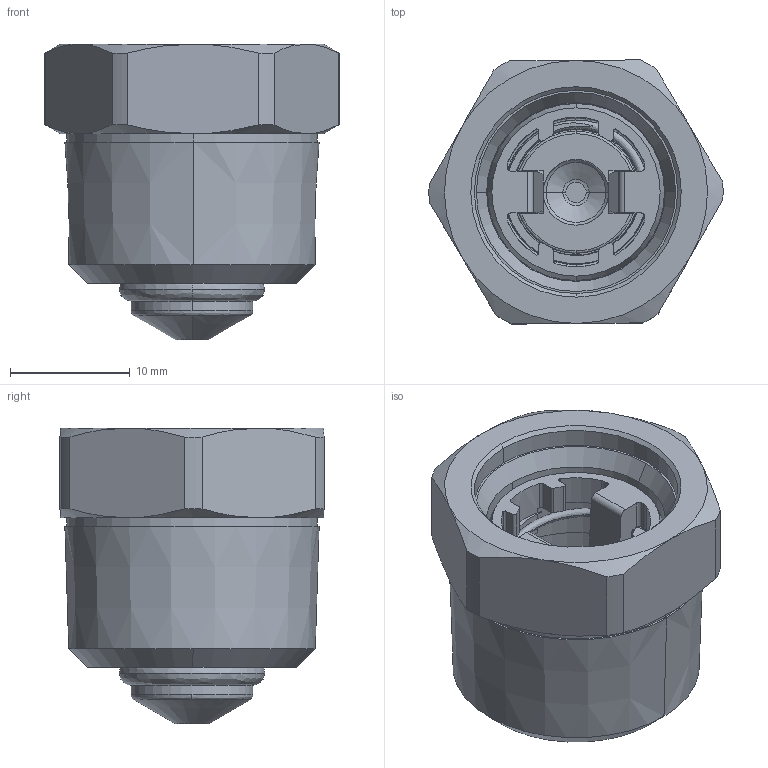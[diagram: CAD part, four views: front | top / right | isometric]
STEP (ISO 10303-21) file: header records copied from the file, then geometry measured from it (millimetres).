
FILE_DESCRIPTION (( 'STEP AP214' ), '1' );
FILE_NAME ('77720.STEP', '2022-04-21T06:47:00', ( '' ), ( '' ), 'SwSTEP 2.0', 'SolidWorks 2021', '' );
FILE_SCHEMA (( 'AUTOMOTIVE_DESIGN' ));
Length unit declared in the file: millimetre
Products named in the file (6): 05 00 250330_Druckfeder _X_F812x21,2mm d=0,7mm; 05 00 25 40_MV G3_8ixR1_2ax20 _RO_; 05 00 250325_St_X_F6_X_DFel MV R1_2 L=22; 801 000 0184_O-Ring _X_F88,0x2,0mm EPDM; 77720; 05 00 250320_Ventilgeh_X_E4use MV G3_8ixR1_2a SW22x20_ Ms
Assembly tree (5 placements, depth 3):
  77720
    05 00 25 40_MV G3_8ixR1_2ax20 _RO_
      05 00 250330_Druckfeder _X_F812x21,2mm d=0,7mm
      801 000 0184_O-Ring _X_F88,0x2,0mm EPDM
      05 00 250325_St_X_F6_X_DFel MV R1_2 L=22
    05 00 250320_Ventilgeh_X_E4use MV G3_8ixR1_2a SW22x20_ Ms
Bounding box: 24.6 x 22.09 x 24.74 mm (x, y, z)
Volume: 4667 mm3; surface area: 4447.9 mm2
Topology: 4 solids, 4 shells, 229 faces, 605 edges, 388 vertices
Faces by surface type: cylinder 77, plane 59, bspline 58, cone 35
Entity records: 13778 total; most frequent: CARTESIAN_POINT 5574, ORIENTED_EDGE 1210, DIRECTION 1133, EDGE_CURVE 605, AXIS2_PLACEMENT_3D 467, VERTEX_POINT 388, CIRCLE 287, UNCERTAINTY_MEASURE_WITH_UNIT 243
